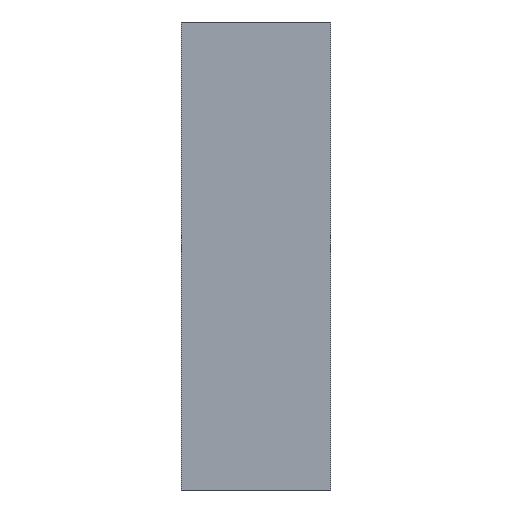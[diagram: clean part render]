
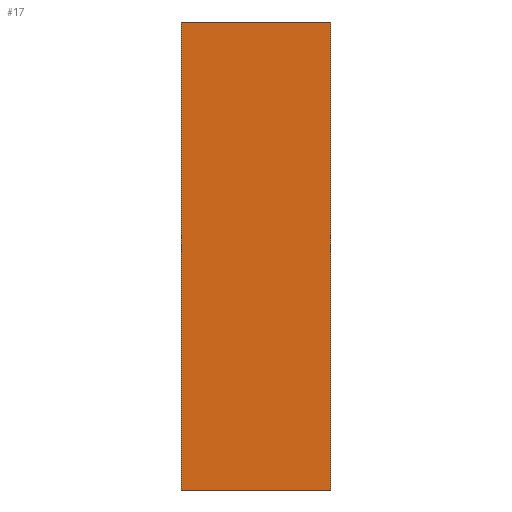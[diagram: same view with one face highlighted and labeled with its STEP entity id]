
A CAD part, front view. The second image highlights one B-rep face of the part: STEP entity #17.
In plain terms, the highlighted planar face has unit normal (0, -1, 0).
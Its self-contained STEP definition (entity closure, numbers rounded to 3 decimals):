
#17 = ADVANCED_FACE('',(#18),#32,.F.);
#18 = FACE_BOUND('',#19,.F.);
#19 = EDGE_LOOP('',(#20,#55,#83,#111));
#20 = ORIENTED_EDGE('',*,*,#21,.T.);
#21 = EDGE_CURVE('',#22,#24,#26,.T.);
#22 = VERTEX_POINT('',#23);
#23 = CARTESIAN_POINT('',(1040.,210.,650.));
#24 = VERTEX_POINT('',#25);
#25 = CARTESIAN_POINT('',(1040.,210.,964.));
#26 = SURFACE_CURVE('',#27,(#31,#43),.PCURVE_S1.);
#27 = LINE('',#28,#29);
#28 = CARTESIAN_POINT('',(1040.,210.,650.));
#29 = VECTOR('',#30,1.);
#30 = DIRECTION('',(0.,0.,1.));
#31 = PCURVE('',#32,#37);
#32 = PLANE('',#33);
#33 = AXIS2_PLACEMENT_3D('',#34,#35,#36);
#34 = CARTESIAN_POINT('',(1040.,210.,650.));
#35 = DIRECTION('',(0.,1.,0.));
#36 = DIRECTION('',(1.,0.,0.));
#37 = DEFINITIONAL_REPRESENTATION('',(#38),#42);
#38 = LINE('',#39,#40);
#39 = CARTESIAN_POINT('',(0.,0.));
#40 = VECTOR('',#41,1.);
#41 = DIRECTION('',(0.,-1.));
#42 = ( GEOMETRIC_REPRESENTATION_CONTEXT(2) 
PARAMETRIC_REPRESENTATION_CONTEXT() REPRESENTATION_CONTEXT('2D SPACE',''
  ) );
#43 = PCURVE('',#44,#49);
#44 = PLANE('',#45);
#45 = AXIS2_PLACEMENT_3D('',#46,#47,#48);
#46 = CARTESIAN_POINT('',(1040.,310.,650.));
#47 = DIRECTION('',(1.,0.,-0.));
#48 = DIRECTION('',(0.,-1.,0.));
#49 = DEFINITIONAL_REPRESENTATION('',(#50),#54);
#50 = LINE('',#51,#52);
#51 = CARTESIAN_POINT('',(100.,0.));
#52 = VECTOR('',#53,1.);
#53 = DIRECTION('',(0.,-1.));
#54 = ( GEOMETRIC_REPRESENTATION_CONTEXT(2) 
PARAMETRIC_REPRESENTATION_CONTEXT() REPRESENTATION_CONTEXT('2D SPACE',''
  ) );
#55 = ORIENTED_EDGE('',*,*,#56,.T.);
#56 = EDGE_CURVE('',#24,#57,#59,.T.);
#57 = VERTEX_POINT('',#58);
#58 = CARTESIAN_POINT('',(1140.,210.,964.));
#59 = SURFACE_CURVE('',#60,(#64,#71),.PCURVE_S1.);
#60 = LINE('',#61,#62);
#61 = CARTESIAN_POINT('',(1040.,210.,964.));
#62 = VECTOR('',#63,1.);
#63 = DIRECTION('',(1.,0.,0.));
#64 = PCURVE('',#32,#65);
#65 = DEFINITIONAL_REPRESENTATION('',(#66),#70);
#66 = LINE('',#67,#68);
#67 = CARTESIAN_POINT('',(0.,-314.));
#68 = VECTOR('',#69,1.);
#69 = DIRECTION('',(1.,0.));
#70 = ( GEOMETRIC_REPRESENTATION_CONTEXT(2) 
PARAMETRIC_REPRESENTATION_CONTEXT() REPRESENTATION_CONTEXT('2D SPACE',''
  ) );
#71 = PCURVE('',#72,#77);
#72 = PLANE('',#73);
#73 = AXIS2_PLACEMENT_3D('',#74,#75,#76);
#74 = CARTESIAN_POINT('',(1090.,260.,964.));
#75 = DIRECTION('',(0.,0.,1.));
#76 = DIRECTION('',(1.,0.,-0.));
#77 = DEFINITIONAL_REPRESENTATION('',(#78),#82);
#78 = LINE('',#79,#80);
#79 = CARTESIAN_POINT('',(-50.,-50.));
#80 = VECTOR('',#81,1.);
#81 = DIRECTION('',(1.,0.));
#82 = ( GEOMETRIC_REPRESENTATION_CONTEXT(2) 
PARAMETRIC_REPRESENTATION_CONTEXT() REPRESENTATION_CONTEXT('2D SPACE',''
  ) );
#83 = ORIENTED_EDGE('',*,*,#84,.F.);
#84 = EDGE_CURVE('',#85,#57,#87,.T.);
#85 = VERTEX_POINT('',#86);
#86 = CARTESIAN_POINT('',(1140.,210.,650.));
#87 = SURFACE_CURVE('',#88,(#92,#99),.PCURVE_S1.);
#88 = LINE('',#89,#90);
#89 = CARTESIAN_POINT('',(1140.,210.,650.));
#90 = VECTOR('',#91,1.);
#91 = DIRECTION('',(0.,0.,1.));
#92 = PCURVE('',#32,#93);
#93 = DEFINITIONAL_REPRESENTATION('',(#94),#98);
#94 = LINE('',#95,#96);
#95 = CARTESIAN_POINT('',(100.,0.));
#96 = VECTOR('',#97,1.);
#97 = DIRECTION('',(0.,-1.));
#98 = ( GEOMETRIC_REPRESENTATION_CONTEXT(2) 
PARAMETRIC_REPRESENTATION_CONTEXT() REPRESENTATION_CONTEXT('2D SPACE',''
  ) );
#99 = PCURVE('',#100,#105);
#100 = PLANE('',#101);
#101 = AXIS2_PLACEMENT_3D('',#102,#103,#104);
#102 = CARTESIAN_POINT('',(1140.,210.,650.));
#103 = DIRECTION('',(-1.,0.,0.));
#104 = DIRECTION('',(0.,1.,0.));
#105 = DEFINITIONAL_REPRESENTATION('',(#106),#110);
#106 = LINE('',#107,#108);
#107 = CARTESIAN_POINT('',(0.,0.));
#108 = VECTOR('',#109,1.);
#109 = DIRECTION('',(0.,-1.));
#110 = ( GEOMETRIC_REPRESENTATION_CONTEXT(2) 
PARAMETRIC_REPRESENTATION_CONTEXT() REPRESENTATION_CONTEXT('2D SPACE',''
  ) );
#111 = ORIENTED_EDGE('',*,*,#112,.F.);
#112 = EDGE_CURVE('',#22,#85,#113,.T.);
#113 = SURFACE_CURVE('',#114,(#118,#125),.PCURVE_S1.);
#114 = LINE('',#115,#116);
#115 = CARTESIAN_POINT('',(1040.,210.,650.));
#116 = VECTOR('',#117,1.);
#117 = DIRECTION('',(1.,0.,0.));
#118 = PCURVE('',#32,#119);
#119 = DEFINITIONAL_REPRESENTATION('',(#120),#124);
#120 = LINE('',#121,#122);
#121 = CARTESIAN_POINT('',(0.,0.));
#122 = VECTOR('',#123,1.);
#123 = DIRECTION('',(1.,0.));
#124 = ( GEOMETRIC_REPRESENTATION_CONTEXT(2) 
PARAMETRIC_REPRESENTATION_CONTEXT() REPRESENTATION_CONTEXT('2D SPACE',''
  ) );
#125 = PCURVE('',#126,#131);
#126 = PLANE('',#127);
#127 = AXIS2_PLACEMENT_3D('',#128,#129,#130);
#128 = CARTESIAN_POINT('',(1090.,260.,650.));
#129 = DIRECTION('',(0.,0.,1.));
#130 = DIRECTION('',(1.,0.,-0.));
#131 = DEFINITIONAL_REPRESENTATION('',(#132),#136);
#132 = LINE('',#133,#134);
#133 = CARTESIAN_POINT('',(-50.,-50.));
#134 = VECTOR('',#135,1.);
#135 = DIRECTION('',(1.,0.));
#136 = ( GEOMETRIC_REPRESENTATION_CONTEXT(2) 
PARAMETRIC_REPRESENTATION_CONTEXT() REPRESENTATION_CONTEXT('2D SPACE',''
  ) );
